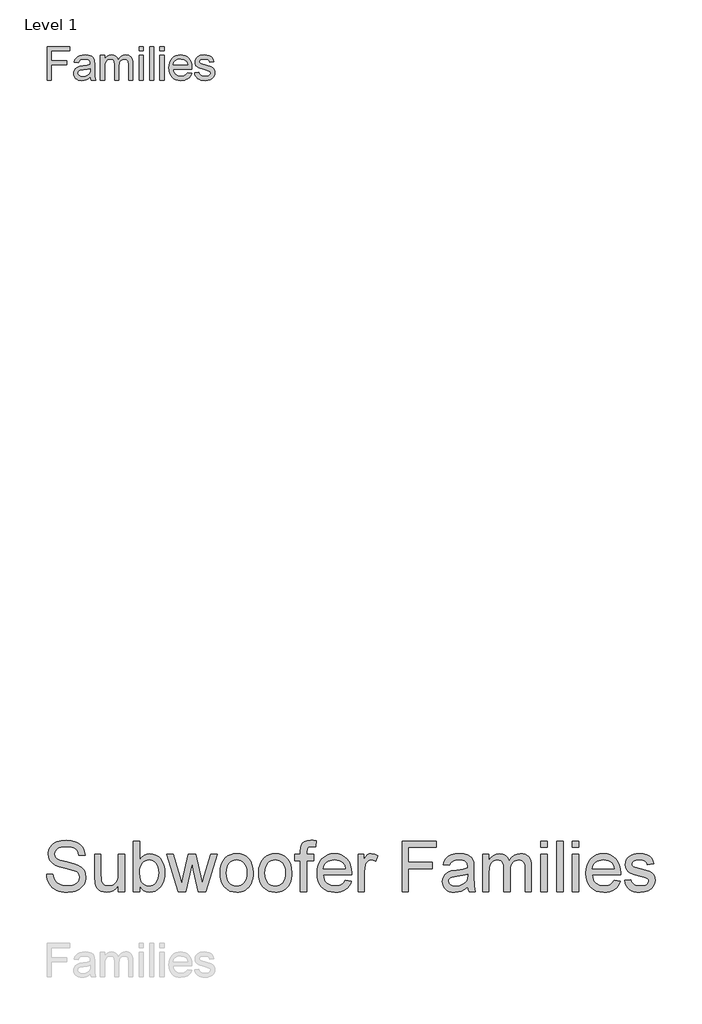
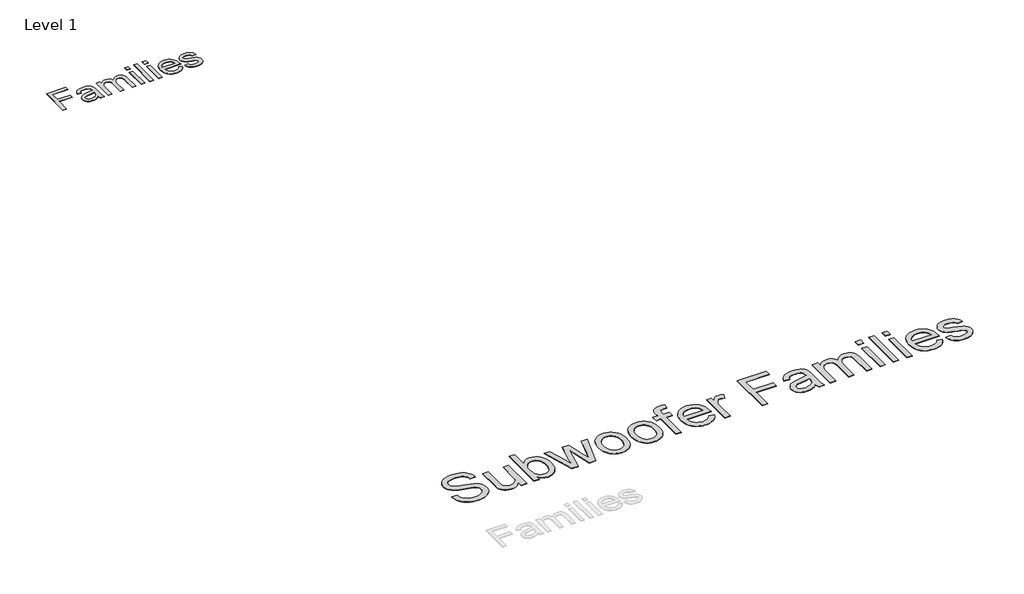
# One storey, part 2 of 6: 2 proxies.
"""IFC4 building model written with IfcOpenShell, lengths in millimetres."""

from ifc_helpers import new_model, si_unit, origin, origin_with_axes, place, context, project, spatial, polyline, outline, extrude, element, save

model = new_model("IFC4")

# Units and contexts
model_context = context("Model", 3, world=origin())
ifc_project = project(units=[si_unit("LENGTHUNIT", "METRE", prefix="MILLI")], contexts=[model_context])

# Site, building, storey
site = spatial("IfcSite", under=ifc_project)
building = spatial("IfcBuilding", under=site)
storey = spatial("IfcBuildingStorey", under=building, Name="Level 1", Elevation=0.0)

# Proxies
placement = place(None, origin())
element("IfcBuildingElementProxy", 1, Name="400mm Arial", ObjectType="400mm Arial", at=placement, inside=storey, context=model_context, shape_type="SweptSolid", body=[
    extrude(outline(polyline([(-21056.720891, 9851.3054836), (-21056.720891, 10243.0630593), (-20793.5087698, 10243.0630593), (-20793.5087698, 10194.0933624), (-21007.7511941, 10194.0933624), (-21007.7511941, 10077.7903321), (-20824.1148304, 10077.7903321), (-20824.1148304, 10028.8206351), (-21007.7511941, 10028.8206351), (-21007.7511941, 9851.3054836), (-21056.720891, 9851.3054836)])), origin_with_axes(), (0.0, 0.0, 1.0), 5.0),
    extrude(outline(polyline([(-20548.660285, 9888.0327563), (-20572.0571836, 9867.97144), (-20596.1475009, 9854.8443093), (-20621.4811893, 9847.5992809), (-20648.6082016, 9845.1842715), (-20670.4120309, 9846.6368638), (-20689.5318522, 9850.9946408), (-20705.9676654, 9858.2576024), (-20719.7194706, 9868.4257487), (-20730.5780466, 9880.8534831), (-20738.3341723, 9894.895209), (-20742.9878477, 9910.5509263), (-20744.5390729, 9927.8206351), (-20742.1957963, 9948.1210612), (-20735.1659668, 9966.5564305), (-20724.3223352, 9982.3376805), (-20710.5376524, 9994.6757487), (-20676.2493001, 10010.7439305), (-20633.879035, 10018.1085139), (-20583.8094327, 10025.855673), (-20548.9472168, 10034.9418472), (-20548.660285, 10045.8452563), (-20552.0317338, 10067.6998965), (-20562.1460804, 10081.9986654), (-20584.7658721, 10092.6151427), (-20616.2805501, 10096.1539684), (-20645.4519516, 10093.7987364), (-20665.8241107, 10086.7330404), (-20679.7163929, 10073.6656872), (-20689.4481638, 10053.3054836), (-20738.4178607, 10059.4266957), (-20729.9175056, 10086.2069987), (-20717.2327282, 10107.2486654), (-20699.1799346, 10123.3407582), (-20674.5755312, 10135.2723396), (-20644.4835568, 10142.660834), (-20609.9680501, 10145.1236654), (-20576.8632916, 10142.9477658), (-20550.6209857, 10136.4200669), (-20530.8346458, 10126.6046076), (-20517.097785, 10114.5654268), (-20507.9876997, 10099.6808387), (-20502.0816865, 10081.3291578), (-20499.690588, 10038.480673), (-20499.690588, 9977.5554836), (-20497.2038456, 9892.4801995), (-20487.4481638, 9851.3054836), (-20536.4178607, 9851.3054836), (-20544.2606638, 9868.3301048), (-20548.660285, 9888.0327563)]), holes=[polyline([(-20548.660285, 9985.9721502), (-20581.5618001, 9977.8185044), (-20627.6621789, 9970.9560518), (-20669.7933342, 9963.0176048), (-20680.7565208, 9957.5898112), (-20688.8743001, 9950.105673), (-20693.8956069, 9941.1390536), (-20695.5693759, 9931.2638169), (-20691.9229507, 9916.7020271), (-20680.9836751, 9904.7704457), (-20662.990659, 9896.8080877), (-20638.1830122, 9894.1539684), (-20611.8809289, 9897.0830641), (-20588.6394516, 9905.870351), (-20569.7975956, 9918.8181493), (-20556.6943759, 9934.228779), (-20550.8840066, 9950.105673), (-20548.9472168, 9972.103779), (-20548.660285, 9985.9721502)])]), origin_with_axes(), (0.0, 0.0, 1.0), 5.0),
    extrude(outline(polyline([(-20432.3572547, 9851.3054836), (-20432.3572547, 10139.0024533), (-20383.3875577, 10139.0024533), (-20383.3875577, 10091.6587033), (-20368.658391, 10113.405744), (-20349.720891, 10130.4423207), (-20327.2206543, 10141.4533292), (-20301.8032774, 10145.1236654), (-20274.5686657, 10141.3815963), (-20252.7379365, 10130.1553889), (-20236.4306448, 10112.1862838), (-20225.7663456, 10088.2155215), (-20207.9167954, 10113.1128344), (-20187.5565918, 10130.8966294), (-20164.6857348, 10141.5669064), (-20139.3042244, 10145.1236654), (-20119.7002057, 10143.6441732), (-20102.4932632, 10139.2056966), (-20087.683397, 10131.8082357), (-20075.2706069, 10121.4517904), (-20065.4581365, 10108.0168058), (-20058.4492291, 10091.3837269), (-20054.2438846, 10071.5525539), (-20052.8421032, 10048.5232866), (-20052.8421032, 9851.3054836), (-20101.8118001, 9851.3054836), (-20101.8118001, 10027.4816199), (-20106.3548872, 10068.369404), (-20112.7391202, 10079.6434334), (-20122.8056448, 10088.5024533), (-20135.7534431, 10094.2410896), (-20150.7814971, 10096.1539684), (-20177.3107348, 10091.2522165), (-20198.9382206, 10076.5469608), (-20207.3279874, 10065.2669537), (-20213.320678, 10051.03394), (-20218.1148304, 10013.7088927), (-20218.1148304, 9851.3054836), (-20267.0845274, 9851.3054836), (-20267.0845274, 10032.9333245), (-20269.9179791, 10060.6222449), (-20278.4183342, 10080.3727184), (-20293.3746552, 10092.2086559), (-20315.5760047, 10096.1539684), (-20334.4417717, 10093.5237601), (-20351.8250577, 10085.6331351), (-20366.1716486, 10072.6733813), (-20375.9273304, 10054.8357866), (-20381.5225009, 10030.0879173), (-20383.3875577, 9996.3973396), (-20383.3875577, 9851.3054836), (-20432.3572547, 9851.3054836)])), origin_with_axes(), (0.0, 0.0, 1.0), 5.0),
    extrude(outline(polyline([(-19979.3875577, 9851.3054836), (-19979.3875577, 10139.0024533), (-19930.4178607, 10139.0024533), (-19930.4178607, 9851.3054836), (-19979.3875577, 9851.3054836)])), origin_with_axes(), (0.0, 0.0, 1.0), 5.0),
    extrude(outline(polyline([(-19979.3875577, 10194.0933624), (-19979.3875577, 10243.0630593), (-19930.4178607, 10243.0630593), (-19930.4178607, 10194.0933624), (-19979.3875577, 10194.0933624)])), origin_with_axes(), (0.0, 0.0, 1.0), 5.0),
    extrude(outline(polyline([(-19856.9633153, 9851.3054836), (-19856.9633153, 10243.0630593), (-19807.9936183, 10243.0630593), (-19807.9936183, 9851.3054836), (-19856.9633153, 9851.3054836)])), origin_with_axes(), (0.0, 0.0, 1.0), 5.0),
    extrude(outline(polyline([(-19734.5390729, 9851.3054836), (-19734.5390729, 10139.0024533), (-19685.5693759, 10139.0024533), (-19685.5693759, 9851.3054836), (-19734.5390729, 9851.3054836)])), origin_with_axes(), (0.0, 0.0, 1.0), 5.0),
    extrude(outline(polyline([(-19734.5390729, 10194.0933624), (-19734.5390729, 10243.0630593), (-19685.5693759, 10243.0630593), (-19685.5693759, 10194.0933624), (-19734.5390729, 10194.0933624)])), origin_with_axes(), (0.0, 0.0, 1.0), 5.0),
    extrude(outline(polyline([(-19410.6886941, 9937.0024533), (-19362.6754365, 9930.8812411), (-19370.0370309, 9911.6508316), (-19379.975034, 9894.7039211), (-19392.4894457, 9880.0405096), (-19407.580266, 9867.6605972), (-19425.0920736, 9857.8272047), (-19444.8694469, 9850.8033529), (-19491.220891, 9845.1842715), (-19521.605775, 9847.6082475), (-19548.6789876, 9854.8801758), (-19572.4405288, 9867.0000563), (-19592.8903986, 9883.9678889), (-19609.3351784, 9905.3114317), (-19621.0814497, 9930.5584429), (-19628.1292125, 9959.7089223), (-19630.4784668, 9992.7628699), (-19628.1053015, 10026.937645), (-19620.9858058, 10057.0595082), (-19609.1199796, 10083.1284594), (-19592.5078229, 10105.1444987), (-19572.1117528, 10122.6353841), (-19548.8941865, 10135.1288737), (-19522.855124, 10142.6249675), (-19493.9945653, 10145.1236654), (-19466.0635461, 10142.6309452), (-19440.8045795, 10135.1527847), (-19418.2176654, 10122.6891839), (-19398.3028039, 10105.2401427), (-19382.0463231, 10083.2719253), (-19370.4345511, 10057.2507961), (-19363.4674879, 10027.1767549), (-19361.1451335, 9993.0498018), (-19361.4320653, 9979.8509381), (-19581.5087698, 9979.8509381), (-19578.6723292, 9960.3096858), (-19573.0323257, 9943.1953983), (-19564.5887592, 9928.5080759), (-19553.3416297, 9916.2477184), (-19524.9234242, 9899.6774059), (-19490.2644516, 9894.1539684), (-19464.2014782, 9896.7124438), (-19442.2511941, 9904.3878699), (-19424.4135994, 9917.6584665), (-19410.6886941, 9937.0024533)]), holes=[polyline([(-19581.5087698, 10028.8206351), (-19410.1148304, 10028.8206351), (-19416.7381732, 10054.6923207), (-19429.721838, 10073.199423), (-19443.076123, 10083.2420366), (-19458.2715539, 10090.4153321), (-19494.1858532, 10096.1539684), (-19527.1949677, 10091.5750148), (-19554.4893569, 10077.838154), (-19573.4627234, 10056.4258671), (-19581.5087698, 10028.8206351)])]), origin_with_axes(), (0.0, 0.0, 1.0), 5.0),
    extrude(outline(polyline([(-19330.5390729, 9937.0024533), (-19281.5693759, 9943.1236654), (-19273.8461278, 9922.1776427), (-19258.9017622, 9906.7789684), (-19236.6406354, 9897.3102184), (-19206.9671032, 9894.1539684), (-19177.6522357, 9897.0471976), (-19157.0409668, 9905.7268851), (-19144.8463645, 9918.3040631), (-19140.7814971, 9932.8897639), (-19144.8702755, 9945.371298), (-19157.1366107, 9954.8878699), (-19207.5409668, 9968.8518851), (-19281.2824441, 9992.8106919), (-19299.9449677, 10004.8498728), (-19313.4666297, 10020.7865442), (-19321.680053, 10039.6044893), (-19324.4178607, 10060.2874911), (-19322.2180501, 10079.2608576), (-19315.6186183, 10096.775654), (-19305.2173399, 10112.1384618), (-19291.6119895, 10124.6558624), (-19260.4798872, 10139.1459192), (-19218.3487319, 10145.1236654), (-19186.4753891, 10142.7206114), (-19158.7625577, 10135.5114495), (-19136.4775198, 10124.2015536), (-19120.8875577, 10109.496298), (-19110.5580122, 10090.3077326), (-19104.0542244, 10065.5479078), (-19153.0239213, 10059.4266957), (-19159.2049109, 10074.8373254), (-19171.4353797, 10086.4461086), (-19189.8348825, 10093.7270035), (-19214.5229744, 10096.1539684), (-19242.6422925, 10093.8346029), (-19261.3885047, 10086.8765063), (-19271.933249, 10076.8338927), (-19275.4481638, 10065.260976), (-19269.6138835, 10051.010029), (-19251.345891, 10040.2022639), (-19209.1669138, 10029.7770745), (-19137.2904933, 10006.7268851), (-19118.3051713, 9995.7039211), (-19103.9107585, 9980.6160896), (-19094.8365397, 9961.4155688), (-19091.8118001, 9938.0545366), (-19095.3625814, 9913.9044419), (-19106.0149251, 9891.1890063), (-19123.3623446, 9871.6895982), (-19146.9983532, 9857.1875858), (-19175.5480691, 9848.1851), (-19207.6366107, 9845.1842715), (-19233.9924938, 9846.630886), (-19257.0127944, 9850.9707298), (-19276.6975127, 9858.2038027), (-19293.0466486, 9868.3301048), (-19306.4009336, 9881.3018141), (-19317.1010994, 9897.0711086), (-19325.1471458, 9915.6379883), (-19330.5390729, 9937.0024533)])), origin_with_axes(), (0.0, 0.0, 1.0), 5.0),
])
element("IfcBuildingElementProxy", 2, Name="600mm Arial", ObjectType="600mm Arial", at=placement, inside=storey, context=model_context, shape_type="SweptSolid", body=[
    extrude(outline(polyline([(-21062.646299, 554.3824066), (-20988.8001451, 554.3824066), (-20980.3265874, 513.4028393), (-20965.0020682, 480.4641374), (-20941.0958182, 454.3223105), (-20906.8770682, 433.7333682), (-20865.0501451, 420.3739932), (-20818.3193759, 415.9208682), (-20777.177549, 419.2922624), (-20741.1559143, 429.4064451), (-20711.9672124, 445.4160605), (-20691.3241836, 466.4737528), (-20679.0465393, 490.6504355), (-20674.9539913, 516.017022), (-20678.0188951, 540.7345701), (-20687.2136067, 562.0987528), (-20705.8914913, 580.3259163), (-20737.4059143, 595.6324066), (-20844.9299528, 623.829522), (-20915.5128855, 642.4893778), (-20960.6751451, 660.2477913), (-20997.4359624, 685.0915413), (-21023.4876451, 715.1997143), (-21039.0104817, 749.923272), (-21044.1847605, 788.6131759), (-21042.5847004, 810.603861), (-21037.7845201, 831.8643778), (-21029.7842196, 852.3947264), (-21018.583799, 872.1949066), (-21004.30946, 890.4581278), (-20987.0874047, 906.377599), (-20966.9176331, 919.9533201), (-20943.8001451, 931.1852913), (-20891.8410105, 946.2754355), (-20834.3289913, 951.3054836), (-20772.021299, 946.0410605), (-20717.5020682, 930.2477913), (-20693.6499047, 918.4839691), (-20672.7184143, 904.2501951), (-20654.707597, 887.5464691), (-20639.6174528, 868.3727913), (-20627.5651692, 847.2880557), (-20618.6679336, 824.8511566), (-20612.9257461, 801.0620941), (-20610.3386067, 775.9208682), (-20684.1847605, 775.9208682), (-20689.1246643, 799.4845701), (-20697.7424528, 819.9833682), (-20710.0381259, 837.4172624), (-20726.0116836, 851.7862528), (-20745.9606018, 863.018224), (-20770.1823567, 871.0410605), (-20798.676948, 875.8547624), (-20831.4443759, 877.4593297), (-20865.2574768, 875.8727913), (-20894.1487028, 871.1131759), (-20918.1180538, 863.1804836), (-20937.1655297, 852.0747143), (-20951.6787509, 838.7243538), (-20962.0453374, 824.0578874), (-20968.2652893, 808.0753153), (-20970.3386067, 790.7766374), (-20964.4612028, 762.3992336), (-20946.8289913, 739.5747143), (-20930.6390874, 729.424474), (-20905.146299, 719.1660605), (-20826.2520682, 698.3247143), (-20744.833799, 678.5290413), (-20695.5789913, 661.2574066), (-20653.4816355, 634.4665413), (-20637.2060946, 618.7183441), (-20624.1126451, 601.4016374), (-20614.0480417, 582.6065653), (-20606.8590393, 562.423272), (-20601.1078374, 517.892022), (-20602.7619841, 494.7925629), (-20607.724424, 472.3691855), (-20615.9951571, 450.6218898), (-20627.5741836, 429.5506759), (-20642.2586788, 409.971349), (-20659.8458182, 392.6997143), (-20680.3356018, 377.735772), (-20703.7280297, 365.079522), (-20729.3425129, 355.0149187), (-20756.4984624, 347.8259163), (-20815.4347605, 342.0747143), (-20853.2097004, 343.6251951), (-20887.7845201, 348.2766374), (-20919.1592196, 356.0290413), (-20947.333799, 366.8824066), (-20972.4795321, 380.8547624), (-20994.7676932, 397.9641374), (-21014.1982821, 418.2105316), (-21030.771299, 441.5939451), (-21044.1216595, 467.3571663), (-21053.8842797, 494.7429836), (-21060.0591595, 523.751397), (-21062.646299, 554.3824066)])), origin_with_axes(), (0.0, 0.0, 1.0), 5.0),
    extrude(outline(polyline([(-20222.646299, 351.3054836), (-20222.646299, 425.8727913), (-20249.365049, 389.2111326), (-20280.4828374, 363.0242336), (-20315.9996643, 347.3120941), (-20355.9155297, 342.0747143), (-20391.8830778, 345.752599), (-20425.3626451, 356.7862528), (-20453.4515874, 373.3727913), (-20473.2472605, 393.7093297), (-20486.5705778, 418.408849), (-20495.2424528, 448.0843297), (-20499.5693759, 516.7381759), (-20499.5693759, 785.1516374), (-20425.723222, 785.1516374), (-20425.723222, 551.4977913), (-20424.6054336, 504.767022), (-20421.2520682, 476.2093297), (-20410.488847, 451.095147), (-20392.0453374, 432.002599), (-20367.1475009, 419.9413009), (-20337.021299, 415.9208682), (-20305.1643278, 420.0314451), (-20275.3626451, 432.3631759), (-20250.7893278, 451.7802432), (-20234.6174528, 477.1468297), (-20225.6390874, 511.8884163), (-20222.646299, 559.4304836), (-20222.646299, 785.1516374), (-20148.8001451, 785.1516374), (-20148.8001451, 351.3054836), (-20222.646299, 351.3054836)])), origin_with_axes(), (0.0, 0.0, 1.0), 5.0),
    extrude(outline(polyline([(-19973.4155297, 351.3054836), (-20047.2616836, 351.3054836), (-20047.2616836, 942.0747143), (-19973.4155297, 942.0747143), (-19973.4155297, 722.9881759), (-19949.130674, 754.2231518), (-19921.708799, 776.533849), (-19891.1499047, 789.9202672), (-19857.4539913, 794.3824066), (-19819.4131259, 790.361974), (-19783.4636067, 778.3006759), (-19751.660722, 758.955724), (-19726.0597605, 733.0843297), (-19705.9936547, 700.938897), (-19690.7953374, 662.7718297), (-19681.2220201, 620.1696663), (-19678.0309143, 574.7189451), (-19681.3347004, 522.2730316), (-19691.2460586, 476.1372143), (-19707.7649889, 436.3114932), (-19730.8914913, 402.7958682), (-19758.6514071, 376.2303634), (-19789.0705778, 357.2550028), (-19822.1490033, 345.8697865), (-19857.8866836, 342.0747143), (-19892.6913711, 346.9695461), (-19923.5477413, 361.6540413), (-19950.4557942, 386.1281999), (-19973.4155297, 420.392022), (-19973.4155297, 351.3054836)]), holes=[polyline([(-19973.4155297, 571.2574066), (-19968.3674528, 509.6708682), (-19962.0573567, 486.3415413), (-19953.223222, 467.9881759), (-19935.3295922, 445.2087288), (-19914.5333182, 428.9376951), (-19890.8343999, 419.1750749), (-19864.2328374, 415.9208682), (-19842.1475009, 418.3187047), (-19821.6126451, 425.5122143), (-19802.6282701, 437.501397), (-19785.1943759, 454.2862528), (-19770.6180538, 475.8217095), (-19760.2063951, 502.0626951), (-19753.9593999, 533.0092095), (-19751.8770682, 568.6612528), (-19753.8737629, 604.9893778), (-19759.863847, 636.2333682), (-19769.8473206, 662.393224), (-19783.8241836, 683.4689451), (-19800.6315754, 699.6858922), (-19819.1066355, 711.2694259), (-19839.2493639, 718.2195461), (-19861.0597605, 720.5362528), (-19883.145097, 718.1384163), (-19903.6799528, 710.9449066), (-19922.6643278, 698.955724), (-19940.098222, 682.1708682), (-19954.6745442, 660.8517576), (-19965.0862028, 635.2598105), (-19971.333198, 605.3950268), (-19973.4155297, 571.2574066)])]), origin_with_axes(), (0.0, 0.0, 1.0), 5.0),
    extrude(outline(polyline([(-19522.9828374, 351.3054836), (-19654.9539913, 785.1516374), (-19578.223222, 785.1516374), (-19503.3674528, 532.0266374), (-19481.0116836, 441.5939451), (-19462.6943759, 528.7093297), (-19403.1270682, 785.1516374), (-19315.146299, 785.1516374), (-19255.8674528, 529.4304836), (-19239.5693759, 450.5362528), (-19216.2039913, 533.7574066), (-19141.2039913, 785.1516374), (-19064.1847605, 785.1516374), (-19197.1655297, 351.3054836), (-19286.4443759, 351.3054836), (-19343.1270682, 605.7285605), (-19359.5693759, 685.0554836), (-19432.6943759, 351.3054836), (-19522.9828374, 351.3054836)])), origin_with_axes(), (0.0, 0.0, 1.0), 5.0),
    extrude(outline(polyline([(-19031.8770682, 568.2285605), (-19027.8836788, 624.4154595), (-19015.9035105, 672.8319259), (-18995.9365634, 713.4779595), (-18967.9828374, 746.3535605), (-18939.8398086, 767.3661807), (-18908.7761067, 782.3751951), (-18874.7917317, 791.3806038), (-18837.8866836, 794.3824066), (-18797.1459985, 790.7270581), (-18760.3085586, 779.7610124), (-18727.3743639, 761.4842696), (-18698.3434143, 735.8968297), (-18674.6490033, 703.8640773), (-18657.724424, 666.251397), (-18647.5696764, 623.0587889), (-18644.1847605, 574.2862528), (-18645.6811547, 534.7580076), (-18650.1703374, 499.6828874), (-18657.6523086, 469.0608922), (-18668.1270682, 442.892022), (-18681.4639071, 420.2883562), (-18697.5321163, 400.361974), (-18716.3316956, 383.1128754), (-18737.8626451, 368.5410605), (-18761.2866235, 356.9620341), (-18785.7652893, 348.6913009), (-18811.2986427, 343.728861), (-18837.8866836, 342.0747143), (-18879.2223206, 345.7165413), (-18916.4023086, 356.642022), (-18949.4266475, 374.8511566), (-18978.2953374, 400.3439451), (-19001.7373446, 432.6876951), (-19018.4816355, 471.4497143), (-19028.52821, 516.6300028), (-19031.8770682, 568.2285605)]), holes=[polyline([(-18958.0309143, 568.3727913), (-18955.8944961, 532.5539812), (-18949.4852413, 501.5398586), (-18938.8031499, 475.3304235), (-18923.848222, 453.9256759), (-18905.6571163, 437.2985725), (-18885.2664913, 425.4220701), (-18862.676347, 418.2961687), (-18837.8866836, 415.9208682), (-18813.223222, 418.3096903), (-18790.723222, 425.4761566), (-18770.3866836, 437.4202672), (-18752.2136067, 454.142022), (-18737.2586788, 475.7586086), (-18726.5765874, 502.3872143), (-18720.1673326, 534.0278393), (-18718.0309143, 570.6804836), (-18720.1808542, 605.3634764), (-18726.630674, 635.5663009), (-18737.3803735, 661.2889571), (-18752.4299528, 682.5314451), (-18770.6706379, 699.1585485), (-18790.9936547, 711.0350509), (-18813.3990033, 718.1609523), (-18837.8866836, 720.5362528), (-18862.676347, 718.1699667), (-18885.2664913, 711.0711086), (-18905.6571163, 699.2396783), (-18923.848222, 682.6756759), (-18938.8031499, 661.3340292), (-18949.4852413, 635.1696663), (-18955.8944961, 604.1825869), (-18958.0309143, 568.3727913)])]), origin_with_axes(), (0.0, 0.0, 1.0), 5.0),
    extrude(outline(polyline([(-18579.5693759, 568.2285605), (-18575.5759865, 624.4154595), (-18563.5958182, 672.8319259), (-18543.6288711, 713.4779595), (-18515.6751451, 746.3535605), (-18487.5321163, 767.3661807), (-18456.4684143, 782.3751951), (-18422.4840393, 791.3806038), (-18385.5789913, 794.3824066), (-18344.8383062, 790.7270581), (-18308.0008663, 779.7610124), (-18275.0666716, 761.4842696), (-18246.035722, 735.8968297), (-18222.341311, 703.8640773), (-18205.4167317, 666.251397), (-18195.2619841, 623.0587889), (-18191.8770682, 574.2862528), (-18193.3734624, 534.7580076), (-18197.8626451, 499.6828874), (-18205.3446163, 469.0608922), (-18215.8193759, 442.892022), (-18229.1562148, 420.2883562), (-18245.224424, 400.361974), (-18264.0240033, 383.1128754), (-18285.5549528, 368.5410605), (-18308.9789312, 356.9620341), (-18333.457597, 348.6913009), (-18358.9909504, 343.728861), (-18385.5789913, 342.0747143), (-18426.9146283, 345.7165413), (-18464.0946163, 356.642022), (-18497.1189552, 374.8511566), (-18525.9876451, 400.3439451), (-18549.4296523, 432.6876951), (-18566.1739432, 471.4497143), (-18576.2205177, 516.6300028), (-18579.5693759, 568.2285605)]), holes=[polyline([(-18505.723222, 568.3727913), (-18503.5868038, 532.5539812), (-18497.177549, 501.5398586), (-18486.4954576, 475.3304235), (-18471.5405297, 453.9256759), (-18453.349424, 437.2985725), (-18432.958799, 425.4220701), (-18410.3686547, 418.2961687), (-18385.5789913, 415.9208682), (-18360.9155297, 418.3096903), (-18338.4155297, 425.4761566), (-18318.0789913, 437.4202672), (-18299.9059143, 454.142022), (-18284.9509865, 475.7586086), (-18274.2688951, 502.3872143), (-18267.8596403, 534.0278393), (-18265.723222, 570.6804836), (-18267.8731619, 605.3634764), (-18274.3229817, 635.5663009), (-18285.0726812, 661.2889571), (-18300.1222605, 682.5314451), (-18318.3629456, 699.1585485), (-18338.6859624, 711.0350509), (-18361.091311, 718.1609523), (-18385.5789913, 720.5362528), (-18410.3686547, 718.1699667), (-18432.958799, 711.0711086), (-18453.349424, 699.2396783), (-18471.5405297, 682.6756759), (-18486.4954576, 661.3340292), (-18497.177549, 635.1696663), (-18503.5868038, 604.1825869), (-18505.723222, 568.3727913)])]), origin_with_axes(), (0.0, 0.0, 1.0), 5.0),
    extrude(outline(polyline([(-18090.3386067, 351.3054836), (-18090.3386067, 711.3054836), (-18154.9539913, 711.3054836), (-18154.9539913, 785.1516374), (-18090.3386067, 785.1516374), (-18090.3386067, 828.8535605), (-18088.3914913, 865.0194259), (-18082.5501451, 890.440099), (-18067.6943759, 914.9953874), (-18044.7616836, 934.4304836), (-18012.6703374, 947.0867336), (-17970.3386067, 951.3054836), (-17938.2833182, 949.2862528), (-17902.9828374, 943.2285605), (-17913.8001451, 873.9977913), (-17956.348222, 877.4593297), (-17984.4191355, 874.3944259), (-18002.8626451, 865.1997143), (-18013.0850009, 847.6396182), (-18016.4924528, 819.4785605), (-18016.4924528, 785.1516374), (-17933.4155297, 785.1516374), (-17933.4155297, 711.3054836), (-18016.4924528, 711.3054836), (-18016.4924528, 351.3054836), (-18090.3386067, 351.3054836)])), origin_with_axes(), (0.0, 0.0, 1.0), 5.0),
    extrude(outline(polyline([(-17565.0501451, 480.5362528), (-17492.646299, 471.3054836), (-17503.747561, 442.3060845), (-17518.7340393, 416.7501951), (-17537.6057341, 394.6378153), (-17560.3626451, 375.9689451), (-17586.7703975, 361.1402191), (-17616.5946163, 350.548272), (-17649.8353014, 344.1931038), (-17686.4924528, 342.0747143), (-17732.3127653, 345.7300629), (-17773.1390874, 356.6961086), (-17808.9714192, 374.9728514), (-17839.8097605, 400.5602913), (-17864.6084384, 432.7462889), (-17882.3217797, 470.8187047), (-17892.9497845, 514.7775389), (-17896.4924528, 564.6227913), (-17892.9137268, 616.158248), (-17882.177549, 661.5819259), (-17864.2839192, 700.8938249), (-17839.2328374, 734.0939451), (-17808.4756259, 760.470147), (-17773.4636067, 779.3102913), (-17734.1967797, 790.6143778), (-17690.6751451, 794.3824066), (-17648.5552533, 790.6233922), (-17610.4648086, 779.346349), (-17576.403811, 760.5512768), (-17546.3722605, 734.2381759), (-17521.8575369, 701.1101711), (-17504.3470201, 661.8703874), (-17493.84071, 616.5188249), (-17490.3386067, 565.0554836), (-17490.771299, 545.1516374), (-17822.646299, 545.1516374), (-17818.3689552, 515.6834884), (-17809.863847, 489.8751951), (-17797.1309744, 467.7267576), (-17780.1703374, 449.2381759), (-17759.919436, 434.6618538), (-17737.3157701, 424.2501951), (-17712.3593398, 418.0031999), (-17685.0501451, 415.9208682), (-17645.7472605, 419.7790413), (-17612.646299, 431.3535605), (-17585.7472605, 451.3655797), (-17565.0501451, 480.5362528)]), holes=[polyline([(-17822.646299, 618.9977913), (-17564.1847605, 618.9977913), (-17574.1727413, 658.0122143), (-17582.7634865, 673.3547624), (-17593.7520682, 685.9208682), (-17613.8902893, 701.065099), (-17636.8049528, 711.8824066), (-17662.4960586, 718.3727913), (-17690.9636067, 720.5362528), (-17716.9296523, 718.8099908), (-17740.7412509, 713.6312047), (-17762.3984023, 704.9998946), (-17781.9011067, 692.9160605), (-17798.2667917, 677.9385966), (-17810.5128855, 660.626397), (-17818.6393879, 640.9794619), (-17822.646299, 618.9977913)])]), origin_with_axes(), (0.0, 0.0, 1.0), 5.0),
    extrude(outline(polyline([(-17416.4924528, 351.3054836), (-17416.4924528, 785.1516374), (-17351.8770682, 785.1516374), (-17351.8770682, 720.9689451), (-17328.0068759, 758.1804836), (-17306.0116836, 780.1035605), (-17283.9443759, 790.8126951), (-17259.8578374, 794.3824066), (-17223.0789913, 788.6852913), (-17185.723222, 771.5939451), (-17210.3866836, 705.392022), (-17236.348222, 716.7501951), (-17262.3097605, 720.5362528), (-17284.3590393, 716.8944259), (-17304.0645682, 705.9689451), (-17319.9840393, 688.5891374), (-17330.6751451, 665.5843297), (-17339.6535105, 624.3343297), (-17342.646299, 579.3343297), (-17342.646299, 351.3054836), (-17416.4924528, 351.3054836)])), origin_with_axes(), (0.0, 0.0, 1.0), 5.0),
    extrude(outline(polyline([(-16899.5693759, 351.3054836), (-16899.5693759, 942.0747143), (-16502.646299, 942.0747143), (-16502.646299, 868.2285605), (-16825.723222, 868.2285605), (-16825.723222, 692.8439451), (-16548.8001451, 692.8439451), (-16548.8001451, 618.9977913), (-16825.723222, 618.9977913), (-16825.723222, 351.3054836), (-16899.5693759, 351.3054836)])), origin_with_axes(), (0.0, 0.0, 1.0), 5.0),
    extrude(outline(polyline([(-16133.4155297, 406.690099), (-16168.6979817, 376.4376951), (-16205.0261067, 356.642022), (-16243.2292317, 345.7165413), (-16284.1366836, 342.0747143), (-16317.0167917, 344.2652191), (-16345.849424, 350.8367336), (-16370.6345802, 361.7892576), (-16391.3722605, 377.1227913), (-16407.74696, 395.8637768), (-16419.443174, 417.0386566), (-16426.4609023, 440.6474307), (-16428.8001451, 466.690099), (-16425.2664913, 497.3030797), (-16414.6655297, 525.1035605), (-16398.3133663, 548.9016374), (-16377.5261067, 567.5074066), (-16353.0970201, 581.5699066), (-16325.8193759, 591.7381759), (-16261.9251451, 602.8439451), (-16186.4203374, 614.5266374), (-16133.848222, 628.2285605), (-16133.4155297, 644.6708682), (-16138.4996643, 677.627599), (-16144.8548326, 689.8331278), (-16153.7520682, 699.190099), (-16169.130674, 708.5290413), (-16187.8626451, 715.1997143), (-16235.3866836, 720.5362528), (-16279.3770682, 716.9845701), (-16310.098222, 706.329522), (-16331.0477413, 686.6239932), (-16345.723222, 655.9208682), (-16419.5693759, 665.1516374), (-16406.7508663, 705.5362528), (-16387.6222605, 737.267022), (-16360.3987028, 761.533849), (-16323.2953374, 779.5266374), (-16277.9167317, 790.6684643), (-16225.8674528, 794.3824066), (-16175.9455778, 791.1011566), (-16136.3722605, 781.2574066), (-16106.5345201, 766.455724), (-16085.8193759, 748.3006759), (-16072.0813951, 725.8547624), (-16063.1751451, 698.1804836), (-16059.5693759, 633.565099), (-16059.5693759, 541.690099), (-16055.8193759, 413.3968297), (-16050.2664913, 381.6840893), (-16041.1078374, 351.3054836), (-16114.9539913, 351.3054836), (-16126.7809143, 376.9785605), (-16133.4155297, 406.690099)]), holes=[polyline([(-16133.4155297, 554.3824066), (-16183.0309143, 542.0867336), (-16252.5501451, 531.7381759), (-16316.083799, 519.767022), (-16332.6162509, 511.5819259), (-16344.8578374, 500.2958682), (-16352.4299528, 486.7742336), (-16354.9539913, 471.8824066), (-16349.4551932, 449.923272), (-16332.958799, 431.9304836), (-16305.8253855, 419.923272), (-16268.4155297, 415.9208682), (-16228.7520682, 420.3379355), (-16193.7039913, 433.5891374), (-16165.2905297, 453.1143778), (-16145.5309143, 476.3535605), (-16136.7688951, 500.2958682), (-16133.848222, 533.4689451), (-16133.4155297, 554.3824066)])]), origin_with_axes(), (0.0, 0.0, 1.0), 5.0),
    extrude(outline(polyline([(-15958.0309143, 351.3054836), (-15958.0309143, 785.1516374), (-15884.1847605, 785.1516374), (-15884.1847605, 713.7574066), (-15861.973222, 746.5518778), (-15833.4155297, 772.2429836), (-15799.4852413, 788.8475509), (-15761.1559143, 794.3824066), (-15720.0862028, 788.7393778), (-15702.6072365, 781.6855917), (-15687.1655297, 771.8102913), (-15662.5741836, 744.7129355), (-15646.4924528, 708.565099), (-15619.5753855, 746.1101711), (-15588.8722605, 772.9280797), (-15554.3830778, 789.0188249), (-15516.1078374, 794.3824066), (-15486.5450369, 792.1513369), (-15460.5970201, 785.4581278), (-15438.2637869, 774.3027792), (-15419.5453374, 758.6852913), (-15404.7481619, 738.4253754), (-15394.1787509, 713.3427432), (-15387.8371042, 683.4373946), (-15385.723222, 648.7093297), (-15385.723222, 351.3054836), (-15459.5693759, 351.3054836), (-15459.5693759, 616.9785605), (-15461.2821163, 653.8114932), (-15466.4203374, 678.6372143), (-15476.0477413, 695.6384163), (-15491.2280297, 708.9977913), (-15510.7532701, 717.6516374), (-15533.4155297, 720.5362528), (-15554.3425129, 718.6882961), (-15573.4215393, 713.1444259), (-15590.6526091, 703.9046422), (-15606.035722, 690.9689451), (-15618.6874648, 673.9587288), (-15627.724424, 652.4953874), (-15633.1465994, 626.5789211), (-15634.9539913, 596.2093297), (-15634.9539913, 351.3054836), (-15708.8001451, 351.3054836), (-15708.8001451, 625.1997143), (-15713.0729817, 666.954522), (-15725.8914913, 696.7381759), (-15735.8028494, 707.1498345), (-15748.4455778, 714.5867336), (-15763.8196764, 719.048873), (-15781.9251451, 720.5362528), (-15810.3746643, 716.5699066), (-15836.5886067, 704.6708682), (-15858.223222, 685.127599), (-15872.9347605, 658.2285605), (-15881.3722605, 620.908849), (-15884.1847605, 570.1035605), (-15884.1847605, 351.3054836), (-15958.0309143, 351.3054836)])), origin_with_axes(), (0.0, 0.0, 1.0), 5.0),
    extrude(outline(polyline([(-15274.9539913, 351.3054836), (-15274.9539913, 785.1516374), (-15201.1078374, 785.1516374), (-15201.1078374, 351.3054836), (-15274.9539913, 351.3054836)])), origin_with_axes(), (0.0, 0.0, 1.0), 5.0),
    extrude(outline(polyline([(-15274.9539913, 868.2285605), (-15274.9539913, 942.0747143), (-15201.1078374, 942.0747143), (-15201.1078374, 868.2285605), (-15274.9539913, 868.2285605)])), origin_with_axes(), (0.0, 0.0, 1.0), 5.0),
    extrude(outline(polyline([(-15090.3386067, 351.3054836), (-15090.3386067, 942.0747143), (-15016.4924528, 942.0747143), (-15016.4924528, 351.3054836), (-15090.3386067, 351.3054836)])), origin_with_axes(), (0.0, 0.0, 1.0), 5.0),
    extrude(outline(polyline([(-14905.723222, 351.3054836), (-14905.723222, 785.1516374), (-14831.8770682, 785.1516374), (-14831.8770682, 351.3054836), (-14905.723222, 351.3054836)])), origin_with_axes(), (0.0, 0.0, 1.0), 5.0),
    extrude(outline(polyline([(-14905.723222, 868.2285605), (-14905.723222, 942.0747143), (-14831.8770682, 942.0747143), (-14831.8770682, 868.2285605), (-14905.723222, 868.2285605)])), origin_with_axes(), (0.0, 0.0, 1.0), 5.0),
    extrude(outline(polyline([(-14417.3578374, 480.5362528), (-14344.9539913, 471.3054836), (-14356.0552533, 442.3060845), (-14371.0417317, 416.7501951), (-14389.9134264, 394.6378153), (-14412.6703374, 375.9689451), (-14439.0780898, 361.1402191), (-14468.9023086, 350.548272), (-14502.1429937, 344.1931038), (-14538.8001451, 342.0747143), (-14584.6204576, 345.7300629), (-14625.4467797, 356.6961086), (-14661.2791115, 374.9728514), (-14692.1174528, 400.5602913), (-14716.9161307, 432.7462889), (-14734.629472, 470.8187047), (-14745.2574768, 514.7775389), (-14748.8001451, 564.6227913), (-14745.2214192, 616.158248), (-14734.4852413, 661.5819259), (-14716.5916115, 700.8938249), (-14691.5405297, 734.0939451), (-14660.7833182, 760.470147), (-14625.771299, 779.3102913), (-14586.504472, 790.6143778), (-14542.9828374, 794.3824066), (-14500.8629456, 790.6233922), (-14462.7725009, 779.346349), (-14428.7115033, 760.5512768), (-14398.6799528, 734.2381759), (-14374.1652292, 701.1101711), (-14356.6547124, 661.8703874), (-14346.1484023, 616.5188249), (-14342.646299, 565.0554836), (-14343.0789913, 545.1516374), (-14674.9539913, 545.1516374), (-14670.6766475, 515.6834884), (-14662.1715393, 489.8751951), (-14649.4386667, 467.7267576), (-14632.4780297, 449.2381759), (-14612.2271283, 434.6618538), (-14589.6234624, 424.2501951), (-14564.6670321, 418.0031999), (-14537.3578374, 415.9208682), (-14498.0549528, 419.7790413), (-14464.9539913, 431.3535605), (-14438.0549528, 451.3655797), (-14417.3578374, 480.5362528)]), holes=[polyline([(-14674.9539913, 618.9977913), (-14416.4924528, 618.9977913), (-14426.4804336, 658.0122143), (-14435.0711788, 673.3547624), (-14446.0597605, 685.9208682), (-14466.1979817, 701.065099), (-14489.1126451, 711.8824066), (-14514.8037509, 718.3727913), (-14543.271299, 720.5362528), (-14569.2373446, 718.8099908), (-14593.0489432, 713.6312047), (-14614.7060946, 704.9998946), (-14634.208799, 692.9160605), (-14650.5744841, 677.9385966), (-14662.8205778, 660.626397), (-14670.9470802, 640.9794619), (-14674.9539913, 618.9977913)])]), origin_with_axes(), (0.0, 0.0, 1.0), 5.0),
    extrude(outline(polyline([(-14296.4924528, 480.5362528), (-14222.646299, 489.767022), (-14218.1841595, 472.9280797), (-14210.9996643, 458.1804836), (-14201.0928134, 445.5242336), (-14188.4636067, 434.9593297), (-14173.0759865, 426.6300028), (-14154.8938951, 420.6804836), (-14110.146299, 415.9208682), (-14065.9395682, 420.283849), (-14048.7580778, 425.7375749), (-14034.8578374, 433.3727913), (-14016.4684143, 452.3391374), (-14010.3386067, 474.3343297), (-14011.880073, 484.3042816), (-14016.504472, 493.1564451), (-14035.0020682, 507.5074066), (-14062.6583182, 516.8824066), (-14111.0116836, 528.565099), (-14178.4035105, 548.0542816), (-14222.2136067, 564.6949066), (-14250.3566355, 582.8499547), (-14270.7472605, 606.8824066), (-14283.1330778, 635.2598105), (-14287.2616836, 666.4497143), (-14283.9443759, 695.0614932), (-14273.9924528, 721.4737528), (-14258.3073567, 744.6408201), (-14237.7905297, 763.517022), (-14217.3999047, 775.3980316), (-14190.8434143, 785.3679836), (-14160.1402893, 792.1288009), (-14127.3097605, 794.3824066), (-14079.2448567, 790.7586086), (-14037.4539913, 779.8872143), (-14003.848222, 762.8319259), (-13980.3386067, 740.6564451), (-13964.7616836, 711.720147), (-13954.9539913, 674.3824066), (-14028.8001451, 665.1516374), (-14038.1210586, 688.3908201), (-14056.5645682, 705.8968297), (-14084.3109624, 716.876397), (-14121.5405297, 720.5362528), (-14163.9443759, 717.0386566), (-14192.2136067, 706.5458682), (-14208.115049, 691.4016374), (-14213.4155297, 673.9497143), (-14211.2160105, 662.5915413), (-14204.6174528, 652.4593297), (-14193.3313951, 643.408849), (-14177.0693759, 636.1612528), (-14113.4636067, 620.440099), (-14005.0741836, 585.6804836), (-13976.4443759, 569.0578874), (-13954.7376451, 546.3054836), (-13941.0537509, 517.3511566), (-13936.4924528, 482.1227913), (-13941.8470201, 445.704522), (-13957.910722, 411.4497143), (-13984.0705778, 382.0446663), (-14019.7136067, 360.1756759), (-14062.7664913, 346.5999547), (-14111.1559143, 342.0747143), (-14150.9005057, 344.2562047), (-14185.615049, 350.8006759), (-14215.2995442, 361.7081278), (-14239.9539913, 376.9785605), (-14260.0922124, 396.5398586), (-14276.2280297, 420.3199066), (-14288.3614432, 448.3187047), (-14296.4924528, 480.5362528)])), origin_with_axes(), (0.0, 0.0, 1.0), 5.0),
])

save(model, "model.ifc")
